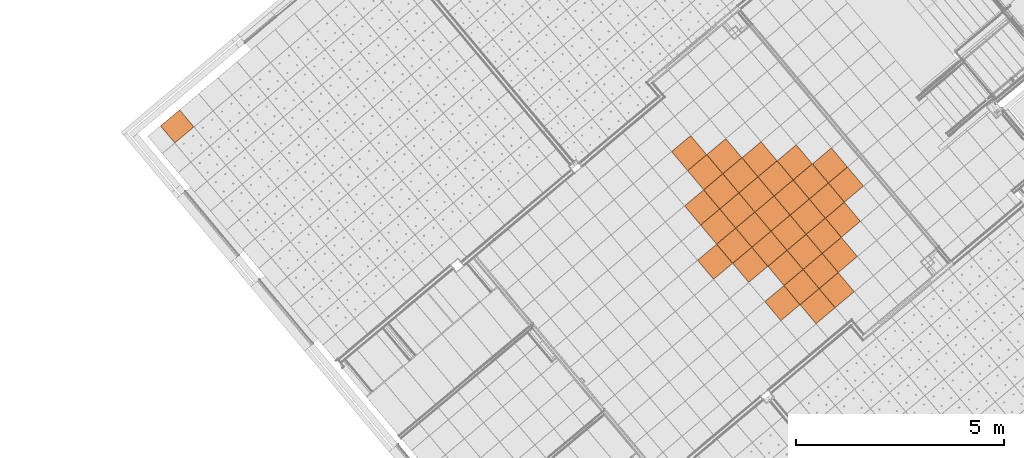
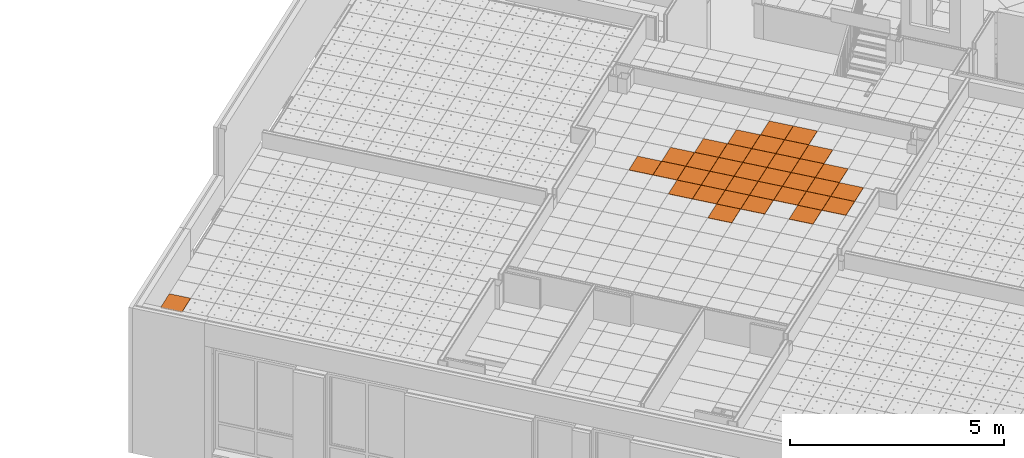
# One storey, part 151 of 338: 36 proxies, 2 elements without a shape of their own.
"""IFC2X3 building model written with IfcOpenShell, lengths in millimetres."""

from ifc_helpers import new_model, entity, si_unit, converted_unit, derived_unit, money_unit, direction, frame, origin_with_axes, place, context, subcontext, project, spatial, faceted_brep, source, transform, mapped, material, type_object, type_shapes, element, aggregate, save


model = new_model("IFC2X3")

# Units and contexts
model_context = context("Model", 3, precision=0.01, world=origin_with_axes(), true_north=direction((0.0, 1.0)))
plan_context = context("Plan", 3, precision=0.01, world=origin_with_axes(), true_north=direction((0.0, 1.0)))
body_context = subcontext(model_context, "Body", "Model", "MODEL_VIEW")
ifc_project = project(units=[si_unit("LENGTHUNIT", "METRE", prefix="MILLI"), si_unit("AREAUNIT", "SQUARE_METRE"), si_unit("VOLUMEUNIT", "CUBIC_METRE"), converted_unit("PLANEANGLEUNIT", "DEGREE", entity("IfcPlaneAngleMeasure", 0.0174532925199), si_unit("PLANEANGLEUNIT", "RADIAN"), dimensions=[0, 0, 0, 0, 0, 0, 0]), money_unit("EUR"), converted_unit("TIMEUNIT", "Year", entity("IfcTimeMeasure", 31556926.0), si_unit("TIMEUNIT", "SECOND"), dimensions=[0, 0, 1, 0, 0, 0, 0]), si_unit("MASSUNIT", "GRAM", prefix="KILO"), si_unit("THERMODYNAMICTEMPERATUREUNIT", "DEGREE_CELSIUS"), si_unit("LUMINOUSINTENSITYUNIT", "LUMEN"), si_unit("ENERGYUNIT", "JOULE", prefix="MEGA"), derived_unit("THERMALCONDUCTANCEUNIT", [(si_unit("POWERUNIT", "WATT"), 1), (si_unit("LENGTHUNIT", "METRE"), -1), (si_unit("THERMODYNAMICTEMPERATUREUNIT", "KELVIN"), -1)]), derived_unit("SPECIFICHEATCAPACITYUNIT", [(si_unit("ENERGYUNIT", "JOULE"), 1), (si_unit("MASSUNIT", "GRAM", prefix="KILO"), -1), (si_unit("THERMODYNAMICTEMPERATUREUNIT", "KELVIN"), -1)]), derived_unit("MASSDENSITYUNIT", [(si_unit("MASSUNIT", "GRAM", prefix="KILO"), 1), (si_unit("VOLUMEUNIT", "CUBIC_METRE"), -1)])], contexts=[model_context, plan_context])

# Site, building, storey
site_placement = place(None, origin_with_axes())
site = spatial("IfcSite", under=ifc_project, at=site_placement, Name="Fortuinstraat Woensdrecht", CompositionType="ELEMENT")
building_placement = place(site_placement, origin_with_axes())
building = spatial("IfcBuilding", under=site, at=building_placement, Name="IKC Fortuna", CompositionType="ELEMENT")
storey_placement = place(building_placement, origin_with_axes())
storey = spatial("IfcBuildingStorey", under=building, at=storey_placement, Name="00 begane grond", CompositionType="ELEMENT", Elevation=0.0)

# Covering, proxies
covering_type = type_object("IfcCoveringType", Name="Curtain Wall Type", PredefinedType="CEILING")
covering_1_placement = place(storey_placement, frame((17937.1227498, -4186.27868692, 4660.0), z_axis=(0.0, 0.0, 1.0), x_axis=(1.0, 0.0, 0.0)))
covering_1 = element("IfcCovering", 1, at=covering_1_placement, inside=storey, type_object=covering_type, Name="45_Plafondafwerking_P02", PredefinedType="CEILING")
ifc_material = material(Name="Gipsplaat")
building_element_proxy_type_1 = type_object("IfcBuildingElementProxyType", Name="Distinct Panel 600 x 600 x 20", PredefinedType="NOTDEFINED")
shared_shape_1 = source(origin_with_axes(), body_context, "Body", "Brep", [
    faceted_brep([(2.49999999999, 2.5, -10.0), (597.5, 2.49999999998, -10.0), (597.5, 2.49999999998, 10.0), (2.49999999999, 2.5, 10.0), (2.50000000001, 597.5, -10.0), (597.5, 597.5, -10.0), (597.5, 597.5, 10.0), (2.50000000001, 597.5, 10.0)], [[[0, 1, 2, 3]], [[0, 4, 5, 1]], [[1, 5, 6, 2]], [[3, 2, 6, 7]], [[4, 0, 3, 7]], [[5, 4, 7, 6]]]),
])
proxy_1_placement = place(covering_1_placement, frame((-4685.90235037, 3717.57005411, 1.00364161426e-10), z_axis=(0.0, 0.0, 1.0), x_axis=(1.0, 0.0, 0.0)))
proxy_1 = element("IfcBuildingElementProxy", 2, at=proxy_1_placement, type_object=building_element_proxy_type_1, material=ifc_material, Name="__Panel-D", context=body_context, shape_type="MappedRepresentation", body=[
    mapped(shared_shape_1, transform((36.9769427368, 422.649625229, 0.0), x_axis=(-0.766044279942, -0.642787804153, 0.0), y_axis=(0.642787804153, -0.766044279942, 0.0), z_axis=(0.0, 0.0, 1.0))),
])
proxy_2_placement = place(covering_1_placement, frame((-2995.30384945, 3569.66228316, 0.0), z_axis=(0.0, 0.0, 1.0), x_axis=(1.0, 0.0, 0.0)))
proxy_2 = element("IfcBuildingElementProxy", 3, at=proxy_2_placement, type_object=building_element_proxy_type_1, material=ifc_material, Name="__Panel-D", context=body_context, shape_type="MappedRepresentation", body=[
    mapped(shared_shape_1, transform((36.9769427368, 422.649625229, 0.0), x_axis=(-0.766044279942, -0.642787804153, 0.0), y_axis=(0.642787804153, -0.766044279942, 0.0), z_axis=(0.0, 0.0, 1.0))),
])
proxy_3_placement = place(covering_1_placement, frame((-2609.63116696, 3110.0357152, 0.0), z_axis=(0.0, 0.0, 1.0), x_axis=(1.0, 0.0, 0.0)))
proxy_3 = element("IfcBuildingElementProxy", 4, at=proxy_3_placement, type_object=building_element_proxy_type_1, material=ifc_material, Name="__Panel-D", context=body_context, shape_type="MappedRepresentation", body=[
    mapped(shared_shape_1, transform((36.9769427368, 422.649625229, 0.0), x_axis=(-0.766044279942, -0.642787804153, 0.0), y_axis=(0.642787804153, -0.766044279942, 0.0), z_axis=(0.0, 0.0, 1.0))),
])
proxy_4_placement = place(covering_1_placement, frame((-2223.95848447, 2650.40914723, 0.0), z_axis=(0.0, 0.0, 1.0), x_axis=(1.0, 0.0, 0.0)))
proxy_4 = element("IfcBuildingElementProxy", 5, at=proxy_4_placement, type_object=building_element_proxy_type_1, material=ifc_material, Name="__Panel-D", context=body_context, shape_type="MappedRepresentation", body=[
    mapped(shared_shape_1, transform((36.9769427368, 422.649625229, 0.0), x_axis=(-0.766044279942, -0.642787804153, 0.0), y_axis=(0.642787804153, -0.766044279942, 0.0), z_axis=(0.0, 0.0, 1.0))),
])
proxy_5_placement = place(covering_1_placement, frame((-1838.28580198, 2190.78257927, 0.0), z_axis=(0.0, 0.0, 1.0), x_axis=(1.0, 0.0, 0.0)))
proxy_5 = element("IfcBuildingElementProxy", 6, at=proxy_5_placement, type_object=building_element_proxy_type_1, material=ifc_material, Name="__Panel-D", context=body_context, shape_type="MappedRepresentation", body=[
    mapped(shared_shape_1, transform((36.9769427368, 422.649625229, 0.0), x_axis=(-0.766044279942, -0.642787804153, 0.0), y_axis=(0.642787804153, -0.766044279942, 0.0), z_axis=(0.0, 0.0, 1.0))),
])
proxy_6_placement = place(covering_1_placement, frame((-1452.61311948, 1731.1560113, 0.0), z_axis=(0.0, 0.0, 1.0), x_axis=(1.0, 0.0, 0.0)))
proxy_6 = element("IfcBuildingElementProxy", 7, at=proxy_6_placement, type_object=building_element_proxy_type_1, material=ifc_material, Name="__Panel-D", context=body_context, shape_type="MappedRepresentation", body=[
    mapped(shared_shape_1, transform((36.9769427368, 422.649625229, 0.0), x_axis=(-0.766044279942, -0.642787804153, 0.0), y_axis=(0.642787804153, -0.766044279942, 0.0), z_axis=(0.0, 0.0, 1.0))),
])
proxy_7_placement = place(covering_1_placement, frame((-1066.94043699, 1271.52944333, 0.0), z_axis=(0.0, 0.0, 1.0), x_axis=(1.0, 0.0, 0.0)))
proxy_7 = element("IfcBuildingElementProxy", 8, at=proxy_7_placement, type_object=building_element_proxy_type_1, material=ifc_material, Name="__Panel-D", context=body_context, shape_type="MappedRepresentation", body=[
    mapped(shared_shape_1, transform((36.9769427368, 422.649625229, 0.0), x_axis=(-0.766044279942, -0.642787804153, 0.0), y_axis=(0.642787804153, -0.766044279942, 0.0), z_axis=(0.0, 0.0, 1.0))),
])
proxy_8_placement = place(covering_1_placement, frame((-3454.93041742, 3183.98960067, 0.0), z_axis=(0.0, 0.0, 1.0), x_axis=(1.0, 0.0, 0.0)))
proxy_8 = element("IfcBuildingElementProxy", 9, at=proxy_8_placement, type_object=building_element_proxy_type_1, material=ifc_material, Name="__Panel-D", context=body_context, shape_type="MappedRepresentation", body=[
    mapped(shared_shape_1, transform((36.9769427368, 422.649625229, 0.0), x_axis=(-0.766044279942, -0.642787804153, 0.0), y_axis=(0.642787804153, -0.766044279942, 0.0), z_axis=(0.0, 0.0, 1.0))),
])
proxy_9_placement = place(covering_1_placement, frame((-3069.25773492, 2724.3630327, 0.0), z_axis=(0.0, 0.0, 1.0), x_axis=(1.0, 0.0, 0.0)))
proxy_9 = element("IfcBuildingElementProxy", 10, at=proxy_9_placement, type_object=building_element_proxy_type_1, material=ifc_material, Name="__Panel-D", context=body_context, shape_type="MappedRepresentation", body=[
    mapped(shared_shape_1, transform((36.9769427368, 422.649625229, 0.0), x_axis=(-0.766044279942, -0.642787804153, 0.0), y_axis=(0.642787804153, -0.766044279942, 0.0), z_axis=(0.0, 0.0, 1.0))),
])
proxy_10_placement = place(covering_1_placement, frame((-2683.58505243, 2264.73646474, 0.0), z_axis=(0.0, 0.0, 1.0), x_axis=(1.0, 0.0, 0.0)))
proxy_10 = element("IfcBuildingElementProxy", 11, at=proxy_10_placement, type_object=building_element_proxy_type_1, material=ifc_material, Name="__Panel-D", context=body_context, shape_type="MappedRepresentation", body=[
    mapped(shared_shape_1, transform((36.9769427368, 422.649625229, 0.0), x_axis=(-0.766044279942, -0.642787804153, 0.0), y_axis=(0.642787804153, -0.766044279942, 0.0), z_axis=(0.0, 0.0, 1.0))),
])
proxy_11_placement = place(covering_1_placement, frame((-2297.91236994, 1805.10989677, 0.0), z_axis=(0.0, 0.0, 1.0), x_axis=(1.0, 0.0, 0.0)))
proxy_11 = element("IfcBuildingElementProxy", 12, at=proxy_11_placement, type_object=building_element_proxy_type_1, material=ifc_material, Name="__Panel-D", context=body_context, shape_type="MappedRepresentation", body=[
    mapped(shared_shape_1, transform((36.9769427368, 422.649625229, 0.0), x_axis=(-0.766044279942, -0.642787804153, 0.0), y_axis=(0.642787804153, -0.766044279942, 0.0), z_axis=(0.0, 0.0, 1.0))),
])
proxy_12_placement = place(covering_1_placement, frame((-1912.23968745, 1345.48332881, 0.0), z_axis=(0.0, 0.0, 1.0), x_axis=(1.0, 0.0, 0.0)))
proxy_12 = element("IfcBuildingElementProxy", 13, at=proxy_12_placement, type_object=building_element_proxy_type_1, material=ifc_material, Name="__Panel-D", context=body_context, shape_type="MappedRepresentation", body=[
    mapped(shared_shape_1, transform((36.9769427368, 422.649625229, 0.0), x_axis=(-0.766044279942, -0.642787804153, 0.0), y_axis=(0.642787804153, -0.766044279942, 0.0), z_axis=(0.0, 0.0, 1.0))),
])
proxy_13_placement = place(covering_1_placement, frame((-1526.56700496, 885.856760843, 0.0), z_axis=(0.0, 0.0, 1.0), x_axis=(1.0, 0.0, 0.0)))
proxy_13 = element("IfcBuildingElementProxy", 14, at=proxy_13_placement, type_object=building_element_proxy_type_1, material=ifc_material, Name="__Panel-D", context=body_context, shape_type="MappedRepresentation", body=[
    mapped(shared_shape_1, transform((36.9769427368, 422.649625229, 0.0), x_axis=(-0.766044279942, -0.642787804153, 0.0), y_axis=(0.642787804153, -0.766044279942, 0.0), z_axis=(0.0, 0.0, 1.0))),
])
proxy_14_placement = place(covering_1_placement, frame((-1140.89432247, 426.230192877, 0.0), z_axis=(0.0, 0.0, 1.0), x_axis=(1.0, 0.0, 0.0)))
proxy_14 = element("IfcBuildingElementProxy", 15, at=proxy_14_placement, type_object=building_element_proxy_type_1, material=ifc_material, Name="__Panel-D", context=body_context, shape_type="MappedRepresentation", body=[
    mapped(shared_shape_1, transform((36.9769427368, 422.649625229, 0.0), x_axis=(-0.766044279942, -0.642787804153, 0.0), y_axis=(0.642787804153, -0.766044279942, 0.0), z_axis=(0.0, 0.0, 1.0))),
])
proxy_15_placement = place(covering_1_placement, frame((-4300.22966787, 3257.94348614, 1.00364161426e-10), z_axis=(0.0, 0.0, 1.0), x_axis=(1.0, 0.0, 0.0)))
proxy_15 = element("IfcBuildingElementProxy", 16, at=proxy_15_placement, type_object=building_element_proxy_type_1, material=ifc_material, Name="__Panel-D", context=body_context, shape_type="MappedRepresentation", body=[
    mapped(shared_shape_1, transform((36.9769427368, 422.649625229, 0.0), x_axis=(-0.766044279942, -0.642787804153, 0.0), y_axis=(0.642787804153, -0.766044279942, 0.0), z_axis=(0.0, 0.0, 1.0))),
])
proxy_16_placement = place(covering_1_placement, frame((-3914.55698538, 2798.31691818, 1.00364161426e-10), z_axis=(0.0, 0.0, 1.0), x_axis=(1.0, 0.0, 0.0)))
proxy_16 = element("IfcBuildingElementProxy", 17, at=proxy_16_placement, type_object=building_element_proxy_type_1, material=ifc_material, Name="__Panel-D", context=body_context, shape_type="MappedRepresentation", body=[
    mapped(shared_shape_1, transform((36.9769427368, 422.649625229, 0.0), x_axis=(-0.766044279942, -0.642787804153, 0.0), y_axis=(0.642787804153, -0.766044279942, 0.0), z_axis=(0.0, 0.0, 1.0))),
])
proxy_17_placement = place(covering_1_placement, frame((-3528.88430289, 2338.69035021, 1.00364161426e-10), z_axis=(0.0, 0.0, 1.0), x_axis=(1.0, 0.0, 0.0)))
proxy_17 = element("IfcBuildingElementProxy", 18, at=proxy_17_placement, type_object=building_element_proxy_type_1, material=ifc_material, Name="__Panel-D", context=body_context, shape_type="MappedRepresentation", body=[
    mapped(shared_shape_1, transform((36.9769427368, 422.649625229, 0.0), x_axis=(-0.766044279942, -0.642787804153, 0.0), y_axis=(0.642787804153, -0.766044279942, 0.0), z_axis=(0.0, 0.0, 1.0))),
])
proxy_18_placement = place(covering_1_placement, frame((-3143.2116204, 1879.06378225, 1.00364161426e-10), z_axis=(0.0, 0.0, 1.0), x_axis=(1.0, 0.0, 0.0)))
proxy_18 = element("IfcBuildingElementProxy", 19, at=proxy_18_placement, type_object=building_element_proxy_type_1, material=ifc_material, Name="__Panel-D", context=body_context, shape_type="MappedRepresentation", body=[
    mapped(shared_shape_1, transform((36.9769427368, 422.649625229, 0.0), x_axis=(-0.766044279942, -0.642787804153, 0.0), y_axis=(0.642787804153, -0.766044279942, 0.0), z_axis=(0.0, 0.0, 1.0))),
])
proxy_19_placement = place(covering_1_placement, frame((-2757.53893791, 1419.43721428, 1.00364161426e-10), z_axis=(0.0, 0.0, 1.0), x_axis=(1.0, 0.0, 0.0)))
proxy_19 = element("IfcBuildingElementProxy", 20, at=proxy_19_placement, type_object=building_element_proxy_type_1, material=ifc_material, Name="__Panel-D", context=body_context, shape_type="MappedRepresentation", body=[
    mapped(shared_shape_1, transform((36.9769427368, 422.649625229, 0.0), x_axis=(-0.766044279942, -0.642787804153, 0.0), y_axis=(0.642787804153, -0.766044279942, 0.0), z_axis=(0.0, 0.0, 1.0))),
])
proxy_20_placement = place(covering_1_placement, frame((-2371.86625541, 959.810646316, 1.00364161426e-10), z_axis=(0.0, 0.0, 1.0), x_axis=(1.0, 0.0, 0.0)))
proxy_20 = element("IfcBuildingElementProxy", 21, at=proxy_20_placement, type_object=building_element_proxy_type_1, material=ifc_material, Name="__Panel-D", context=body_context, shape_type="MappedRepresentation", body=[
    mapped(shared_shape_1, transform((36.9769427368, 422.649625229, 0.0), x_axis=(-0.766044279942, -0.642787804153, 0.0), y_axis=(0.642787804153, -0.766044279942, 0.0), z_axis=(0.0, 0.0, 1.0))),
])
proxy_21_placement = place(covering_1_placement, frame((-1986.19357292, 500.184078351, 1.00364161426e-10), z_axis=(0.0, 0.0, 1.0), x_axis=(1.0, 0.0, 0.0)))
proxy_21 = element("IfcBuildingElementProxy", 22, at=proxy_21_placement, type_object=building_element_proxy_type_1, material=ifc_material, Name="__Panel-D", context=body_context, shape_type="MappedRepresentation", body=[
    mapped(shared_shape_1, transform((36.9769427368, 422.649625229, 0.0), x_axis=(-0.766044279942, -0.642787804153, 0.0), y_axis=(0.642787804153, -0.766044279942, 0.0), z_axis=(0.0, 0.0, 1.0))),
])
proxy_22_placement = place(covering_1_placement, frame((-1600.52089043, 40.5575103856, 1.00364161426e-10), z_axis=(0.0, 0.0, 1.0), x_axis=(1.0, 0.0, 0.0)))
proxy_22 = element("IfcBuildingElementProxy", 23, at=proxy_22_placement, type_object=building_element_proxy_type_1, material=ifc_material, Name="__Panel-D", context=body_context, shape_type="MappedRepresentation", body=[
    mapped(shared_shape_1, transform((36.9769427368, 422.649625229, 0.0), x_axis=(-0.766044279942, -0.642787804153, 0.0), y_axis=(0.642787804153, -0.766044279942, 0.0), z_axis=(0.0, 0.0, 1.0))),
])
proxy_23_placement = place(covering_1_placement, frame((-4374.18355335, 2412.64423569, 1.1990408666e-10), z_axis=(0.0, 0.0, 1.0), x_axis=(1.0, 0.0, 0.0)))
proxy_23 = element("IfcBuildingElementProxy", 24, at=proxy_23_placement, type_object=building_element_proxy_type_1, material=ifc_material, Name="__Panel-D", context=body_context, shape_type="MappedRepresentation", body=[
    mapped(shared_shape_1, transform((36.9769427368, 422.649625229, 0.0), x_axis=(-0.766044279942, -0.642787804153, 0.0), y_axis=(0.642787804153, -0.766044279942, 0.0), z_axis=(0.0, 0.0, 1.0))),
])
proxy_24_placement = place(covering_1_placement, frame((-3988.51087086, 1953.01766772, 1.1990408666e-10), z_axis=(0.0, 0.0, 1.0), x_axis=(1.0, 0.0, 0.0)))
proxy_24 = element("IfcBuildingElementProxy", 25, at=proxy_24_placement, type_object=building_element_proxy_type_1, material=ifc_material, Name="__Panel-D", context=body_context, shape_type="MappedRepresentation", body=[
    mapped(shared_shape_1, transform((36.9769427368, 422.649625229, 0.0), x_axis=(-0.766044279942, -0.642787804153, 0.0), y_axis=(0.642787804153, -0.766044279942, 0.0), z_axis=(0.0, 0.0, 1.0))),
])
proxy_25_placement = place(covering_1_placement, frame((-3602.83818836, 1493.39109976, 1.1990408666e-10), z_axis=(0.0, 0.0, 1.0), x_axis=(1.0, 0.0, 0.0)))
proxy_25 = element("IfcBuildingElementProxy", 26, at=proxy_25_placement, type_object=building_element_proxy_type_1, material=ifc_material, Name="__Panel-D", context=body_context, shape_type="MappedRepresentation", body=[
    mapped(shared_shape_1, transform((36.9769427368, 422.649625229, 0.0), x_axis=(-0.766044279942, -0.642787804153, 0.0), y_axis=(0.642787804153, -0.766044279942, 0.0), z_axis=(0.0, 0.0, 1.0))),
])
proxy_26_placement = place(covering_1_placement, frame((-3217.16550587, 1033.76453179, 1.1990408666e-10), z_axis=(0.0, 0.0, 1.0), x_axis=(1.0, 0.0, 0.0)))
proxy_26 = element("IfcBuildingElementProxy", 27, at=proxy_26_placement, type_object=building_element_proxy_type_1, material=ifc_material, Name="__Panel-D", context=body_context, shape_type="MappedRepresentation", body=[
    mapped(shared_shape_1, transform((36.9769427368, 422.649625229, 0.0), x_axis=(-0.766044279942, -0.642787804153, 0.0), y_axis=(0.642787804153, -0.766044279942, 0.0), z_axis=(0.0, 0.0, 1.0))),
])
proxy_27_placement = place(covering_1_placement, frame((-2445.82014089, 114.511395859, 1.1990408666e-10), z_axis=(0.0, 0.0, 1.0), x_axis=(1.0, 0.0, 0.0)))
proxy_27 = element("IfcBuildingElementProxy", 28, at=proxy_27_placement, type_object=building_element_proxy_type_1, material=ifc_material, Name="__Panel-D", context=body_context, shape_type="MappedRepresentation", body=[
    mapped(shared_shape_1, transform((36.9769427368, 422.649625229, 0.0), x_axis=(-0.766044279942, -0.642787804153, 0.0), y_axis=(0.642787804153, -0.766044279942, 0.0), z_axis=(0.0, 0.0, 1.0))),
])
proxy_28_placement = place(covering_1_placement, frame((-4062.46475633, 1107.71841726, 1.39444011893e-10), z_axis=(0.0, 0.0, 1.0), x_axis=(1.0, 0.0, 0.0)))
proxy_28 = element("IfcBuildingElementProxy", 29, at=proxy_28_placement, type_object=building_element_proxy_type_1, material=ifc_material, Name="__Panel-D", context=body_context, shape_type="MappedRepresentation", body=[
    mapped(shared_shape_1, transform((36.9769427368, 422.649625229, 0.0), x_axis=(-0.766044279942, -0.642787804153, 0.0), y_axis=(0.642787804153, -0.766044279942, 0.0), z_axis=(0.0, 0.0, 1.0))),
])
proxy_29_placement = place(covering_1_placement, frame((-992.986551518, 2116.82869379, 0.0), z_axis=(0.0, 0.0, 1.0), x_axis=(1.0, 0.0, 0.0)))
proxy_29 = element("IfcBuildingElementProxy", 30, at=proxy_29_placement, type_object=building_element_proxy_type_1, material=ifc_material, Name="__Panel-D", context=body_context, shape_type="MappedRepresentation", body=[
    mapped(shared_shape_1, transform((36.9769427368, 422.649625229, 0.0), x_axis=(-0.766044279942, -0.642787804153, 0.0), y_axis=(0.642787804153, -0.766044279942, 0.0), z_axis=(0.0, 0.0, 1.0))),
])
proxy_30_placement = place(covering_1_placement, frame((-2150.00459899, 3495.70839769, 0.0), z_axis=(0.0, 0.0, 1.0), x_axis=(1.0, 0.0, 0.0)))
proxy_30 = element("IfcBuildingElementProxy", 31, at=proxy_30_placement, type_object=building_element_proxy_type_1, material=ifc_material, Name="__Panel-D", context=body_context, shape_type="MappedRepresentation", body=[
    mapped(shared_shape_1, transform((36.9769427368, 422.649625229, 0.0), x_axis=(-0.766044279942, -0.642787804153, 0.0), y_axis=(0.642787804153, -0.766044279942, 0.0), z_axis=(0.0, 0.0, 1.0))),
])
proxy_31_placement = place(covering_1_placement, frame((-919.032666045, 2962.12794425, 0.0), z_axis=(0.0, 0.0, 1.0), x_axis=(1.0, 0.0, 0.0)))
proxy_31 = element("IfcBuildingElementProxy", 32, at=proxy_31_placement, type_object=building_element_proxy_type_1, material=ifc_material, Name="__Panel-D", context=body_context, shape_type="MappedRepresentation", body=[
    mapped(shared_shape_1, transform((36.9769427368, 422.649625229, 0.0), x_axis=(-0.766044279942, -0.642787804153, 0.0), y_axis=(0.642787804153, -0.766044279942, 0.0), z_axis=(0.0, 0.0, 1.0))),
])
proxy_32_placement = place(covering_1_placement, frame((-1304.70534854, 3421.75451221, 0.0), z_axis=(0.0, 0.0, 1.0), x_axis=(1.0, 0.0, 0.0)))
proxy_32 = element("IfcBuildingElementProxy", 33, at=proxy_32_placement, type_object=building_element_proxy_type_1, material=ifc_material, Name="__Panel-D", context=body_context, shape_type="MappedRepresentation", body=[
    mapped(shared_shape_1, transform((36.9769427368, 422.649625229, 0.0), x_axis=(-0.766044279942, -0.642787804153, 0.0), y_axis=(0.642787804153, -0.766044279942, 0.0), z_axis=(0.0, 0.0, 1.0))),
])
shared_shape_2 = source(origin_with_axes(), body_context, "Body", "Brep", [
    faceted_brep([(2.5000069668, 2.4999963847, -10.0), (597.499995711, 2.50000275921, -10.0), (597.499995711, 2.50000275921, 10.0), (2.5000069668, 2.4999963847, 10.0), (2.50000214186, 597.499967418, -10.0), (597.499990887, 597.499973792, -10.0), (597.499990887, 597.499973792, 10.0), (2.50000214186, 597.499967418, 10.0)], [[[0, 1, 2, 3]], [[0, 4, 5, 1]], [[1, 5, 6, 2]], [[3, 2, 6, 7]], [[4, 0, 3, 7]], [[5, 4, 7, 6]]]),
])
proxy_33_placement = place(covering_1_placement, frame((-3840.60309991, 3643.61616863, 0.0), z_axis=(0.0, 0.0, 1.0), x_axis=(1.0, 0.0, 0.0)))
proxy_33 = element("IfcBuildingElementProxy", 34, at=proxy_33_placement, type_object=building_element_proxy_type_1, material=ifc_material, Name="__Panel-D", context=body_context, shape_type="MappedRepresentation", body=[
    mapped(shared_shape_2, transform((36.9769427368, 422.649625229, 0.0), x_axis=(-0.766044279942, -0.642787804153, 0.0), y_axis=(0.642787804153, -0.766044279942, 0.0), z_axis=(0.0, 0.0, 1.0))),
])
proxy_34_placement = place(covering_1_placement, frame((-1764.3319165, 3036.08182972, 0.0), z_axis=(0.0, 0.0, 1.0), x_axis=(1.0, 0.0, 0.0)))
proxy_34 = element("IfcBuildingElementProxy", 35, at=proxy_34_placement, type_object=building_element_proxy_type_1, material=ifc_material, Name="__Panel-D", context=body_context, shape_type="MappedRepresentation", body=[
    mapped(shared_shape_2, transform((36.9769427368, 422.649625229, 0.0), x_axis=(-0.766044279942, -0.642787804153, 0.0), y_axis=(0.642787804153, -0.766044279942, 0.0), z_axis=(0.0, 0.0, 1.0))),
])
shared_shape_3 = source(origin_with_axes(), body_context, "Body", "Brep", [
    faceted_brep([(2.50000188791, 2.50000518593, -10.0), (597.499994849, 2.50000192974, -10.0), (597.499994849, 2.50000192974, 10.0), (2.50000188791, 2.50000518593, 10.0), (2.50000514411, 597.499998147, -10.0), (597.499998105, 597.499994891, -10.0), (597.499998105, 597.499994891, 10.0), (2.50000514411, 597.499998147, 10.0)], [[[0, 1, 2, 3]], [[0, 4, 5, 1]], [[1, 5, 6, 2]], [[3, 2, 6, 7]], [[4, 0, 3, 7]], [[5, 4, 7, 6]]]),
])
type_shapes(building_element_proxy_type_1, [shared_shape_1, shared_shape_2, shared_shape_3])
proxy_35_placement = place(covering_1_placement, frame((-1378.65923401, 2576.45526176, 0.0), z_axis=(0.0, 0.0, 1.0), x_axis=(1.0, 0.0, 0.0)))
proxy_35 = element("IfcBuildingElementProxy", 36, at=proxy_35_placement, type_object=building_element_proxy_type_1, material=ifc_material, Name="__Panel-D", context=body_context, shape_type="MappedRepresentation", body=[
    mapped(shared_shape_3, transform((36.9769427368, 422.649625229, 0.0), x_axis=(-0.766044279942, -0.642787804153, 0.0), y_axis=(0.642787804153, -0.766044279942, 0.0), z_axis=(0.0, 0.0, 1.0))),
])
aggregate(covering_1, [proxy_33, proxy_1, proxy_35, proxy_2, proxy_3, proxy_4, proxy_5, proxy_6, proxy_7, proxy_8, proxy_9, proxy_10, proxy_11, proxy_12, proxy_13, proxy_14, proxy_15, proxy_16, proxy_17, proxy_18, proxy_19, proxy_20, proxy_21, proxy_22, proxy_23, proxy_24, proxy_25, proxy_26, proxy_27, proxy_28, proxy_29, proxy_34, proxy_30, proxy_31, proxy_32])

# Covering, proxy
covering_2_placement = place(storey_placement, frame((9775.85169731, -1002.28242867, 4660.0), z_axis=(0.0, 0.0, 1.0), x_axis=(1.0, 0.0, 0.0)))
covering_2 = element("IfcCovering", 37, at=covering_2_placement, inside=storey, type_object=covering_type, Name="45_Plafondafwerking_P01", PredefinedType="CEILING")
building_element_proxy_type_2 = type_object("IfcBuildingElementProxyType", Name="600 x 538 x 20", PredefinedType="NOTDEFINED")
shared_shape_4 = source(origin_with_axes(), body_context, "Body", "Brep", [
    faceted_brep([(2.49999365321, 64.9091355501, -10.0), (597.500000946, 64.9091687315, -10.0), (597.500000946, 64.9091687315, 10.0), (2.49999365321, 64.9091355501, 10.0), (2.4999941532, 597.500000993, -10.0), (597.499996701, 597.499991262, -10.0), (597.499996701, 597.499991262, 10.0), (2.4999941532, 597.500000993, 10.0)], [[[0, 1, 2, 3]], [[0, 4, 5, 1]], [[1, 5, 6, 2]], [[3, 2, 6, 7]], [[4, 0, 3, 7]], [[5, 4, 7, 6]]]),
])
type_shapes(building_element_proxy_type_2, [shared_shape_4])
proxy_36_placement = place(covering_2_placement, frame((-8818.60728019, 1175.26135245, 2.16715534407e-10), z_axis=(0.0, 0.0, 1.0), x_axis=(1.0, 0.0, 0.0)))
proxy_36 = element("IfcBuildingElementProxy", 38, at=proxy_36_placement, type_object=building_element_proxy_type_2, material=ifc_material, Name="__600x613 Rockfon Krios", context=body_context, shape_type="MappedRepresentation", body=[
    mapped(shared_shape_4, transform((16.9190214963, 446.553712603, 0.0), x_axis=(-0.766044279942, -0.642787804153, 0.0), y_axis=(0.642787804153, -0.766044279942, 0.0), z_axis=(0.0, 0.0, 1.0))),
])
aggregate(covering_2, [proxy_36])

save(model, "model.ifc")
